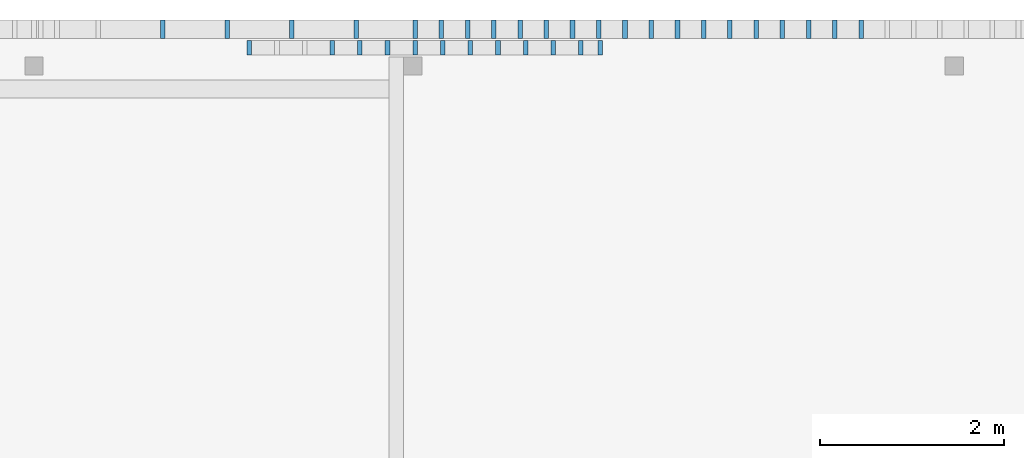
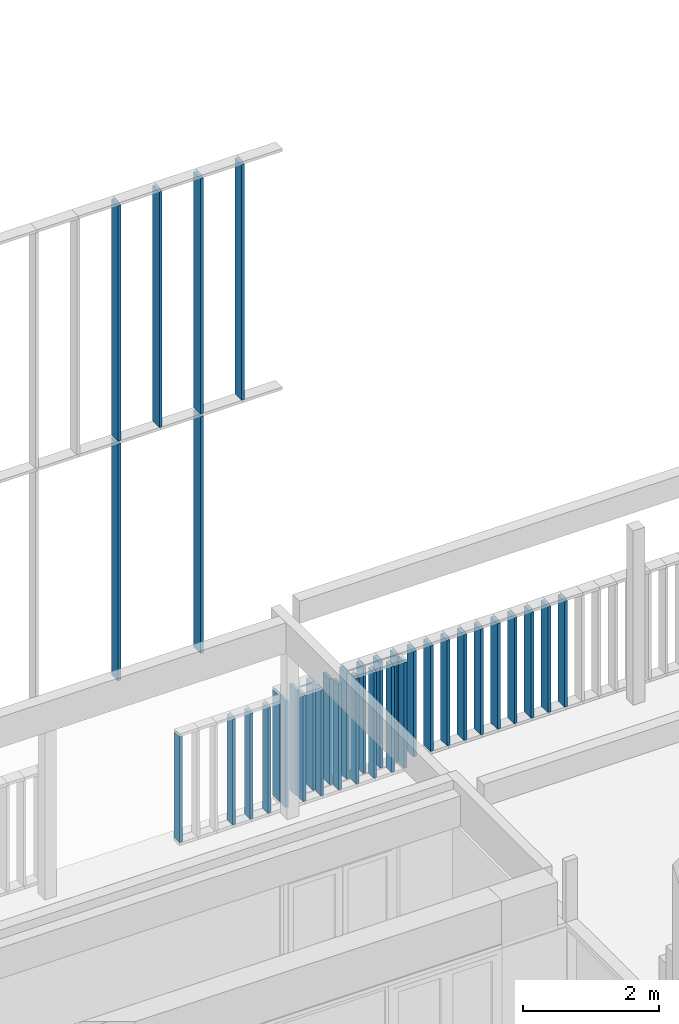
# One storey, part 24 of 240: 36 members, 3 elements without a shape of their own.
"""IFC2X3 building model written with IfcOpenShell, lengths in centimetres."""

from ifc_helpers import new_model, entity, si_unit, converted_unit, derived_unit, direction, frame, origin, origin_2d_with_axis, place, context, subcontext, project, spatial, rectangle, extrude, source, transform, mapped, material, type_object, type_shapes, element, aggregate, save


model = new_model("IFC2X3")

# Units and contexts
model_context = context("Model", 3, precision=0.001, world=origin(), true_north=direction((6.12303176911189e-17, 1.0)))
body_context = subcontext(model_context, "Body", "Model", "MODEL_VIEW")
ifc_project = project(units=[si_unit("LENGTHUNIT", "METRE", prefix="CENTI"), si_unit("AREAUNIT", "SQUARE_METRE"), si_unit("VOLUMEUNIT", "CUBIC_METRE"), converted_unit("PLANEANGLEUNIT", "DEGREE", entity("IfcRatioMeasure", 0.0174532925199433), si_unit("PLANEANGLEUNIT", "RADIAN"), dimensions=[0, 0, 0, 0, 0, 0, 0]), si_unit("MASSUNIT", "GRAM", prefix="KILO"), derived_unit("MASSDENSITYUNIT", [(si_unit("MASSUNIT", "GRAM", prefix="KILO"), 1), (si_unit("LENGTHUNIT", "METRE"), -3)]), si_unit("TIMEUNIT", "SECOND"), si_unit("FREQUENCYUNIT", "HERTZ"), si_unit("THERMODYNAMICTEMPERATUREUNIT", "DEGREE_CELSIUS"), derived_unit("THERMALTRANSMITTANCEUNIT", [(si_unit("MASSUNIT", "GRAM", prefix="KILO"), 1), (si_unit("THERMODYNAMICTEMPERATUREUNIT", "KELVIN"), -1), (si_unit("TIMEUNIT", "SECOND"), -3)]), derived_unit("VOLUMETRICFLOWRATEUNIT", [(si_unit("LENGTHUNIT", "METRE"), 3), (si_unit("TIMEUNIT", "SECOND"), -1)]), si_unit("ELECTRICCURRENTUNIT", "AMPERE"), si_unit("ELECTRICVOLTAGEUNIT", "VOLT"), si_unit("POWERUNIT", "WATT"), si_unit("FORCEUNIT", "NEWTON", prefix="KILO"), si_unit("ILLUMINANCEUNIT", "LUX"), si_unit("LUMINOUSFLUXUNIT", "LUMEN"), si_unit("LUMINOUSINTENSITYUNIT", "CANDELA"), derived_unit("USERDEFINED", [(si_unit("MASSUNIT", "GRAM", prefix="KILO"), -1), (si_unit("LENGTHUNIT", "METRE"), -2), (si_unit("TIMEUNIT", "SECOND"), 3), (si_unit("LUMINOUSFLUXUNIT", "LUMEN"), 1)]), derived_unit("LINEARVELOCITYUNIT", [(si_unit("LENGTHUNIT", "METRE"), 1), (si_unit("TIMEUNIT", "SECOND"), -1)]), si_unit("PRESSUREUNIT", "PASCAL"), derived_unit("USERDEFINED", [(si_unit("LENGTHUNIT", "METRE"), -2), (si_unit("MASSUNIT", "GRAM", prefix="KILO"), 1), (si_unit("TIMEUNIT", "SECOND"), -2)])], contexts=[model_context])

# Site, building, storey
site_placement = place(None, frame((-2781.94577612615, 7442.24238424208, 0.0)))
site = spatial("IfcSite", under=ifc_project, at=site_placement, Name="Default", CompositionType="ELEMENT")
building_placement = place(site_placement, origin())
building = spatial("IfcBuilding", under=site, at=building_placement, CompositionType="ELEMENT")
storey_placement = place(building_placement, origin())
storey = spatial("IfcBuildingStorey", under=building, at=storey_placement, Name="N00 - COO", CompositionType="ELEMENT", Elevation=0.0)

# Curtain wall, members
curtain_wall_type_1 = type_object("IfcCurtainWallType", Name="Mur-rideau:Epines - 200x50mm", PredefinedType="NOTDEFINED")
curtain_wall_1_placement = place(building_placement, origin())
curtain_wall_1 = element("IfcCurtainWall", 1, at=curtain_wall_1_placement, inside=storey, type_object=curtain_wall_type_1, Name="Mur-rideau:Epines - 200x50mm", ObjectType="Mur-rideau:Epines - 200x50mm")
ifc_material = material(Name="Aluminium")
member_type_1 = type_object("IfcMemberType", Name="200x50 mm", PredefinedType="MEMBER")
shared_shape_1 = source(origin(), body_context, "Body", "SweptSolid", [
    extrude(rectangle(XDim=20.0, YDim=5.0, at=origin_2d_with_axis()), frame((0.0, 0.0, -423.0), z_axis=(0.0, 0.0, 1.0), x_axis=(0.0, -1.0, 0.0)), (0.0, 0.0, 1.0), 423.000000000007),
])
type_shapes(member_type_1, [shared_shape_1])
member_1_placement = place(building_placement, frame((-3929.49987760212, 40.0, 748.0), z_axis=(0.0, 0.0, -1.0), x_axis=(1.0, 0.0, 0.0)))
member_1 = element("IfcMember", 2, at=member_1_placement, type_object=member_type_1, material=ifc_material, Name="Meneau rectangulaire:200x50 mm", ObjectType="Meneau rectangulaire:200x50 mm", context=body_context, shape_type="MappedRepresentation", body=[
    mapped(shared_shape_1, transform((0.0, 0.0, 0.0), scale=1.0)),
])
member_2_placement = place(building_placement, frame((-3789.49987864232, 40.0, 748.0), z_axis=(0.0, 0.0, -1.0), x_axis=(1.0, 0.0, 0.0)))
member_2 = element("IfcMember", 3, at=member_2_placement, type_object=member_type_1, material=ifc_material, Name="Meneau rectangulaire:200x50 mm", ObjectType="Meneau rectangulaire:200x50 mm", context=body_context, shape_type="MappedRepresentation", body=[
    mapped(shared_shape_1, transform((0.0, 0.0, 0.0), scale=1.0)),
])
member_3_placement = place(building_placement, frame((-3719.49987916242, 40.0, 748.0), z_axis=(0.0, 0.0, -1.0), x_axis=(1.0, 0.0, 0.0)))
member_3 = element("IfcMember", 4, at=member_3_placement, type_object=member_type_1, material=ifc_material, Name="Meneau rectangulaire:200x50 mm", ObjectType="Meneau rectangulaire:200x50 mm", context=body_context, shape_type="MappedRepresentation", body=[
    mapped(shared_shape_1, transform((0.0, 0.0, 0.0), scale=1.0)),
])
member_4_placement = place(building_placement, frame((-3859.49987812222, 40.0, 748.0), z_axis=(0.0, 0.0, -1.0), x_axis=(1.0, 0.0, 0.0)))
member_4 = element("IfcMember", 5, at=member_4_placement, type_object=member_type_1, material=ifc_material, Name="Meneau rectangulaire:200x50 mm", ObjectType="Meneau rectangulaire:200x50 mm", context=body_context, shape_type="MappedRepresentation", body=[
    mapped(shared_shape_1, transform((0.0, 0.0, 0.0), scale=1.0)),
])
member_type_2 = type_object("IfcMemberType", Name="200x50 mm", PredefinedType="MEMBER")
shared_shape_2 = source(origin(), body_context, "Body", "SweptSolid", [
    extrude(rectangle(XDim=20.0, YDim=5.0, at=origin_2d_with_axis()), frame((0.0, 0.0, -425.5), z_axis=(0.0, 0.0, 1.0), x_axis=(0.0, -1.0, 0.0)), (0.0, 0.0, 1.0), 425.5),
])
type_shapes(member_type_2, [shared_shape_2])
member_5_placement = place(building_placement, frame((-3789.49987864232, 40.0, 317.5), z_axis=(0.0, 0.0, -1.0), x_axis=(1.0, 0.0, 0.0)))
member_5 = element("IfcMember", 6, at=member_5_placement, type_object=member_type_2, material=ifc_material, Name="Meneau rectangulaire:200x50 mm", ObjectType="Meneau rectangulaire:200x50 mm", context=body_context, shape_type="MappedRepresentation", body=[
    mapped(shared_shape_2, transform((0.0, 0.0, 0.0), scale=1.0)),
])
member_6_placement = place(building_placement, frame((-3929.49987760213, 40.0, 317.5), z_axis=(0.0, 0.0, -1.0), x_axis=(1.0, 0.0, 0.0)))
member_6 = element("IfcMember", 7, at=member_6_placement, type_object=member_type_2, material=ifc_material, Name="Meneau rectangulaire:200x50 mm", ObjectType="Meneau rectangulaire:200x50 mm", context=body_context, shape_type="MappedRepresentation", body=[
    mapped(shared_shape_2, transform((0.0, 0.0, 0.0), scale=1.0)),
])
aggregate(curtain_wall_1, [member_1, member_2, member_3, member_4, member_5, member_6])

curtain_wall_type_2 = type_object("IfcCurtainWallType", Name="Mur-rideau:SR-Clôture", PredefinedType="NOTDEFINED")
curtain_wall_2_placement = place(building_placement, origin())
curtain_wall_2 = element("IfcCurtainWall", 8, at=curtain_wall_2_placement, inside=storey, type_object=curtain_wall_type_2, Name="Mur-rideau:SR-Clôture", ObjectType="Mur-rideau:SR-Clôture")
member_type_3 = type_object("IfcMemberType", Name="Epine nord (200x50 mm)", PredefinedType="MEMBER")
shared_shape_3 = source(origin(), body_context, "Body", "SweptSolid", [
    extrude(rectangle(XDim=20.0, YDim=5.0, at=origin_2d_with_axis()), frame((0.0, 0.0, -190.0), z_axis=(0.0, 0.0, 1.0), x_axis=(0.0, -1.0, 0.0)), (0.0, 0.0, 1.0), 190.0),
])
type_shapes(member_type_3, [shared_shape_3])
member_7_placement = place(building_placement, frame((-3626.99987965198, 40.0, 5.0), z_axis=(0.0, 0.0, -1.0), x_axis=(1.0, 0.0, 0.0)))
member_7 = element("IfcMember", 9, at=member_7_placement, type_object=member_type_3, material=ifc_material, Name="Meneau rectangulaire:Epine nord (200x50 mm)", ObjectType="Meneau rectangulaire:Epine nord (200x50 mm)", context=body_context, shape_type="MappedRepresentation", body=[
    mapped(shared_shape_3, transform((0.0, 0.0, 0.0), scale=1.0)),
])
member_8_placement = place(building_placement, frame((-3598.49987965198, 40.0, 5.0), z_axis=(0.0, 0.0, -1.0), x_axis=(1.0, 0.0, 0.0)))
member_8 = element("IfcMember", 10, at=member_8_placement, type_object=member_type_3, material=ifc_material, Name="Meneau rectangulaire:Epine nord (200x50 mm)", ObjectType="Meneau rectangulaire:Epine nord (200x50 mm)", context=body_context, shape_type="MappedRepresentation", body=[
    mapped(shared_shape_3, transform((0.0, 0.0, 0.0), scale=1.0)),
])
member_9_placement = place(building_placement, frame((-3569.99987965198, 40.0, 5.0), z_axis=(0.0, 0.0, -1.0), x_axis=(1.0, 0.0, 0.0)))
member_9 = element("IfcMember", 11, at=member_9_placement, type_object=member_type_3, material=ifc_material, Name="Meneau rectangulaire:Epine nord (200x50 mm)", ObjectType="Meneau rectangulaire:Epine nord (200x50 mm)", context=body_context, shape_type="MappedRepresentation", body=[
    mapped(shared_shape_3, transform((0.0, 0.0, 0.0), scale=1.0)),
])
member_10_placement = place(building_placement, frame((-3541.49987965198, 40.0, 5.0), z_axis=(0.0, 0.0, -1.0), x_axis=(1.0, 0.0, 0.0)))
member_10 = element("IfcMember", 12, at=member_10_placement, type_object=member_type_3, material=ifc_material, Name="Meneau rectangulaire:Epine nord (200x50 mm)", ObjectType="Meneau rectangulaire:Epine nord (200x50 mm)", context=body_context, shape_type="MappedRepresentation", body=[
    mapped(shared_shape_3, transform((0.0, 0.0, 0.0), scale=1.0)),
])
member_11_placement = place(building_placement, frame((-3512.99987965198, 40.0, 5.0), z_axis=(0.0, 0.0, -1.0), x_axis=(1.0, 0.0, 0.0)))
member_11 = element("IfcMember", 13, at=member_11_placement, type_object=member_type_3, material=ifc_material, Name="Meneau rectangulaire:Epine nord (200x50 mm)", ObjectType="Meneau rectangulaire:Epine nord (200x50 mm)", context=body_context, shape_type="MappedRepresentation", body=[
    mapped(shared_shape_3, transform((0.0, 0.0, 0.0), scale=1.0)),
])
member_12_placement = place(building_placement, frame((-3484.49987965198, 40.0, 5.0), z_axis=(0.0, 0.0, -1.0), x_axis=(1.0, 0.0, 0.0)))
member_12 = element("IfcMember", 14, at=member_12_placement, type_object=member_type_3, material=ifc_material, Name="Meneau rectangulaire:Epine nord (200x50 mm)", ObjectType="Meneau rectangulaire:Epine nord (200x50 mm)", context=body_context, shape_type="MappedRepresentation", body=[
    mapped(shared_shape_3, transform((0.0, 0.0, 0.0), scale=1.0)),
])
member_13_placement = place(building_placement, frame((-3455.99987965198, 40.0, 5.0), z_axis=(0.0, 0.0, -1.0), x_axis=(1.0, 0.0, 0.0)))
member_13 = element("IfcMember", 15, at=member_13_placement, type_object=member_type_3, material=ifc_material, Name="Meneau rectangulaire:Epine nord (200x50 mm)", ObjectType="Meneau rectangulaire:Epine nord (200x50 mm)", context=body_context, shape_type="MappedRepresentation", body=[
    mapped(shared_shape_3, transform((0.0, 0.0, 0.0), scale=1.0)),
])
member_14_placement = place(building_placement, frame((-3427.49987965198, 40.0, 5.0), z_axis=(0.0, 0.0, -1.0), x_axis=(1.0, 0.0, 0.0)))
member_14 = element("IfcMember", 16, at=member_14_placement, type_object=member_type_3, material=ifc_material, Name="Meneau rectangulaire:Epine nord (200x50 mm)", ObjectType="Meneau rectangulaire:Epine nord (200x50 mm)", context=body_context, shape_type="MappedRepresentation", body=[
    mapped(shared_shape_3, transform((0.0, 0.0, 0.0), scale=1.0)),
])
member_15_placement = place(building_placement, frame((-3398.99987965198, 40.0, 5.0), z_axis=(0.0, 0.0, -1.0), x_axis=(1.0, 0.0, 0.0)))
member_15 = element("IfcMember", 17, at=member_15_placement, type_object=member_type_3, material=ifc_material, Name="Meneau rectangulaire:Epine nord (200x50 mm)", ObjectType="Meneau rectangulaire:Epine nord (200x50 mm)", context=body_context, shape_type="MappedRepresentation", body=[
    mapped(shared_shape_3, transform((0.0, 0.0, 0.0), scale=1.0)),
])
member_16_placement = place(building_placement, frame((-3370.49987965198, 40.0, 5.0), z_axis=(0.0, 0.0, -1.0), x_axis=(1.0, 0.0, 0.0)))
member_16 = element("IfcMember", 18, at=member_16_placement, type_object=member_type_3, material=ifc_material, Name="Meneau rectangulaire:Epine nord (200x50 mm)", ObjectType="Meneau rectangulaire:Epine nord (200x50 mm)", context=body_context, shape_type="MappedRepresentation", body=[
    mapped(shared_shape_3, transform((0.0, 0.0, 0.0), scale=1.0)),
])
member_17_placement = place(building_placement, frame((-3341.99987965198, 40.0, 5.0), z_axis=(0.0, 0.0, -1.0), x_axis=(1.0, 0.0, 0.0)))
member_17 = element("IfcMember", 19, at=member_17_placement, type_object=member_type_3, material=ifc_material, Name="Meneau rectangulaire:Epine nord (200x50 mm)", ObjectType="Meneau rectangulaire:Epine nord (200x50 mm)", context=body_context, shape_type="MappedRepresentation", body=[
    mapped(shared_shape_3, transform((0.0, 0.0, 0.0), scale=1.0)),
])
member_18_placement = place(building_placement, frame((-3313.49987965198, 40.0, 5.0), z_axis=(0.0, 0.0, -1.0), x_axis=(1.0, 0.0, 0.0)))
member_18 = element("IfcMember", 20, at=member_18_placement, type_object=member_type_3, material=ifc_material, Name="Meneau rectangulaire:Epine nord (200x50 mm)", ObjectType="Meneau rectangulaire:Epine nord (200x50 mm)", context=body_context, shape_type="MappedRepresentation", body=[
    mapped(shared_shape_3, transform((0.0, 0.0, 0.0), scale=1.0)),
])
member_19_placement = place(building_placement, frame((-3284.99987965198, 40.0, 5.0), z_axis=(0.0, 0.0, -1.0), x_axis=(1.0, 0.0, 0.0)))
member_19 = element("IfcMember", 21, at=member_19_placement, type_object=member_type_3, material=ifc_material, Name="Meneau rectangulaire:Epine nord (200x50 mm)", ObjectType="Meneau rectangulaire:Epine nord (200x50 mm)", context=body_context, shape_type="MappedRepresentation", body=[
    mapped(shared_shape_3, transform((0.0, 0.0, 0.0), scale=1.0)),
])
member_20_placement = place(building_placement, frame((-3256.49987965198, 40.0, 5.0), z_axis=(0.0, 0.0, -1.0), x_axis=(1.0, 0.0, 0.0)))
member_20 = element("IfcMember", 22, at=member_20_placement, type_object=member_type_3, material=ifc_material, Name="Meneau rectangulaire:Epine nord (200x50 mm)", ObjectType="Meneau rectangulaire:Epine nord (200x50 mm)", context=body_context, shape_type="MappedRepresentation", body=[
    mapped(shared_shape_3, transform((0.0, 0.0, 0.0), scale=1.0)),
])
member_21_placement = place(building_placement, frame((-3227.99987965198, 40.0, 5.0), z_axis=(0.0, 0.0, -1.0), x_axis=(1.0, 0.0, 0.0)))
member_21 = element("IfcMember", 23, at=member_21_placement, type_object=member_type_3, material=ifc_material, Name="Meneau rectangulaire:Epine nord (200x50 mm)", ObjectType="Meneau rectangulaire:Epine nord (200x50 mm)", context=body_context, shape_type="MappedRepresentation", body=[
    mapped(shared_shape_3, transform((0.0, 0.0, 0.0), scale=1.0)),
])
member_22_placement = place(building_placement, frame((-3199.49987965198, 40.0, 5.0), z_axis=(0.0, 0.0, -1.0), x_axis=(1.0, 0.0, 0.0)))
member_22 = element("IfcMember", 24, at=member_22_placement, type_object=member_type_3, material=ifc_material, Name="Meneau rectangulaire:Epine nord (200x50 mm)", ObjectType="Meneau rectangulaire:Epine nord (200x50 mm)", context=body_context, shape_type="MappedRepresentation", body=[
    mapped(shared_shape_3, transform((0.0, 0.0, 0.0), scale=1.0)),
])
member_23_placement = place(building_placement, frame((-3170.99987965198, 40.0, 5.0), z_axis=(0.0, 0.0, -1.0), x_axis=(1.0, 0.0, 0.0)))
member_23 = element("IfcMember", 25, at=member_23_placement, type_object=member_type_3, material=ifc_material, Name="Meneau rectangulaire:Epine nord (200x50 mm)", ObjectType="Meneau rectangulaire:Epine nord (200x50 mm)", context=body_context, shape_type="MappedRepresentation", body=[
    mapped(shared_shape_3, transform((0.0, 0.0, 0.0), scale=1.0)),
])
member_type_4 = type_object("IfcMemberType", Name="Epine nord (200x50 mm)", PredefinedType="MEMBER")
shared_shape_4 = source(origin(), body_context, "Body", "SweptSolid", [
    extrude(rectangle(XDim=20.0, YDim=5.0, at=origin_2d_with_axis()), frame((-2.5, 0.0, -190.0), z_axis=(0.0, 0.0, 1.0), x_axis=(0.0, -1.0, 0.0)), (0.0, 0.0, 1.0), 190.0),
])
type_shapes(member_type_4, [shared_shape_4])
member_24_placement = place(building_placement, frame((-3657.99987968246, 40.0, 195.0), z_axis=(0.0, 0.0, 1.0), x_axis=(-1.0, 0.0, 0.0)))
member_24 = element("IfcMember", 26, at=member_24_placement, type_object=member_type_4, material=ifc_material, Name="Meneau rectangulaire:Epine nord (200x50 mm)", ObjectType="Meneau rectangulaire:Epine nord (200x50 mm)", context=body_context, shape_type="MappedRepresentation", body=[
    mapped(shared_shape_4, transform((0.0, 0.0, 0.0), scale=1.0)),
])
aggregate(curtain_wall_2, [member_7, member_8, member_9, member_10, member_11, member_12, member_13, member_14, member_15, member_16, member_17, member_18, member_19, member_20, member_21, member_22, member_23, member_24])

curtain_wall_type_3 = type_object("IfcCurtainWallType", Name="Mur-SR", PredefinedType="NOTDEFINED")
curtain_wall_3_placement = place(storey_placement, origin())
curtain_wall_3 = element("IfcCurtainWall", 27, at=curtain_wall_3_placement, inside=storey, type_object=curtain_wall_type_3, Name="Mur-SR", ObjectType="Mur-SR")
member_type_5 = type_object("IfcMemberType", Name="Epine nord (160x50 mm)", PredefinedType="MEMBER")
shared_shape_5 = source(origin(), body_context, "Body", "SweptSolid", [
    extrude(rectangle(XDim=16.0, YDim=5.0, at=origin_2d_with_axis()), frame((0.0, 0.0, -190.0), z_axis=(0.0, 0.0, 1.0), x_axis=(0.0, -1.0, 0.0)), (0.0, 0.0, 1.0), 190.0),
])
type_shapes(member_type_5, [shared_shape_5])
member_25_placement = place(storey_placement, frame((-3745.49987968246, 20.0, 5.0), z_axis=(0.0, 0.0, -1.0), x_axis=(1.0, 0.0, 0.0)))
member_25 = element("IfcMember", 28, at=member_25_placement, type_object=member_type_5, material=ifc_material, Name="Meneau rectangulaire:Epine nord (160x50 mm)", ObjectType="Meneau rectangulaire:Epine nord (160x50 mm)", context=body_context, shape_type="MappedRepresentation", body=[
    mapped(shared_shape_5, transform((0.0, 0.0, 0.0), scale=1.0)),
])
member_26_placement = place(storey_placement, frame((-3715.49987968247, 20.0, 5.0), z_axis=(0.0, 0.0, -1.0), x_axis=(1.0, 0.0, 0.0)))
member_26 = element("IfcMember", 29, at=member_26_placement, type_object=member_type_5, material=ifc_material, Name="Meneau rectangulaire:Epine nord (160x50 mm)", ObjectType="Meneau rectangulaire:Epine nord (160x50 mm)", context=body_context, shape_type="MappedRepresentation", body=[
    mapped(shared_shape_5, transform((0.0, 0.0, 0.0), scale=1.0)),
])
member_27_placement = place(storey_placement, frame((-3685.49987968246, 20.0, 5.0), z_axis=(0.0, 0.0, -1.0), x_axis=(1.0, 0.0, 0.0)))
member_27 = element("IfcMember", 30, at=member_27_placement, type_object=member_type_5, material=ifc_material, Name="Meneau rectangulaire:Epine nord (160x50 mm)", ObjectType="Meneau rectangulaire:Epine nord (160x50 mm)", context=body_context, shape_type="MappedRepresentation", body=[
    mapped(shared_shape_5, transform((0.0, 0.0, 0.0), scale=1.0)),
])
member_28_placement = place(storey_placement, frame((-3655.49987968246, 20.0, 5.0), z_axis=(0.0, 0.0, -1.0), x_axis=(1.0, 0.0, 0.0)))
member_28 = element("IfcMember", 31, at=member_28_placement, type_object=member_type_5, material=ifc_material, Name="Meneau rectangulaire:Epine nord (160x50 mm)", ObjectType="Meneau rectangulaire:Epine nord (160x50 mm)", context=body_context, shape_type="MappedRepresentation", body=[
    mapped(shared_shape_5, transform((0.0, 0.0, 0.0), scale=1.0)),
])
member_29_placement = place(storey_placement, frame((-3625.49987968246, 20.0, 5.0), z_axis=(0.0, 0.0, -1.0), x_axis=(1.0, 0.0, 0.0)))
member_29 = element("IfcMember", 32, at=member_29_placement, type_object=member_type_5, material=ifc_material, Name="Meneau rectangulaire:Epine nord (160x50 mm)", ObjectType="Meneau rectangulaire:Epine nord (160x50 mm)", context=body_context, shape_type="MappedRepresentation", body=[
    mapped(shared_shape_5, transform((0.0, 0.0, 0.0), scale=1.0)),
])
member_30_placement = place(storey_placement, frame((-3595.49987968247, 20.0, 5.0), z_axis=(0.0, 0.0, -1.0), x_axis=(1.0, 0.0, 0.0)))
member_30 = element("IfcMember", 33, at=member_30_placement, type_object=member_type_5, material=ifc_material, Name="Meneau rectangulaire:Epine nord (160x50 mm)", ObjectType="Meneau rectangulaire:Epine nord (160x50 mm)", context=body_context, shape_type="MappedRepresentation", body=[
    mapped(shared_shape_5, transform((0.0, 0.0, 0.0), scale=1.0)),
])
member_31_placement = place(storey_placement, frame((-3565.49987968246, 20.0, 5.0), z_axis=(0.0, 0.0, -1.0), x_axis=(1.0, 0.0, 0.0)))
member_31 = element("IfcMember", 34, at=member_31_placement, type_object=member_type_5, material=ifc_material, Name="Meneau rectangulaire:Epine nord (160x50 mm)", ObjectType="Meneau rectangulaire:Epine nord (160x50 mm)", context=body_context, shape_type="MappedRepresentation", body=[
    mapped(shared_shape_5, transform((0.0, 0.0, 0.0), scale=1.0)),
])
member_32_placement = place(storey_placement, frame((-3535.49987968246, 20.0, 5.0), z_axis=(0.0, 0.0, -1.0), x_axis=(1.0, 0.0, 0.0)))
member_32 = element("IfcMember", 35, at=member_32_placement, type_object=member_type_5, material=ifc_material, Name="Meneau rectangulaire:Epine nord (160x50 mm)", ObjectType="Meneau rectangulaire:Epine nord (160x50 mm)", context=body_context, shape_type="MappedRepresentation", body=[
    mapped(shared_shape_5, transform((0.0, 0.0, 0.0), scale=1.0)),
])
member_33_placement = place(storey_placement, frame((-3505.49987968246, 20.0, 5.0), z_axis=(0.0, 0.0, -1.0), x_axis=(1.0, 0.0, 0.0)))
member_33 = element("IfcMember", 36, at=member_33_placement, type_object=member_type_5, material=ifc_material, Name="Meneau rectangulaire:Epine nord (160x50 mm)", ObjectType="Meneau rectangulaire:Epine nord (160x50 mm)", context=body_context, shape_type="MappedRepresentation", body=[
    mapped(shared_shape_5, transform((0.0, 0.0, 0.0), scale=1.0)),
])
member_34_placement = place(storey_placement, frame((-3475.49987968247, 20.0, 5.0), z_axis=(0.0, 0.0, -1.0), x_axis=(1.0, 0.0, 0.0)))
member_34 = element("IfcMember", 37, at=member_34_placement, type_object=member_type_5, material=ifc_material, Name="Meneau rectangulaire:Epine nord (160x50 mm)", ObjectType="Meneau rectangulaire:Epine nord (160x50 mm)", context=body_context, shape_type="MappedRepresentation", body=[
    mapped(shared_shape_5, transform((0.0, 0.0, 0.0), scale=1.0)),
])
member_type_6 = type_object("IfcMemberType", Name="Epine nord (160x50 mm)", PredefinedType="MEMBER")
shared_shape_6 = source(origin(), body_context, "Body", "SweptSolid", [
    extrude(rectangle(XDim=16.0, YDim=5.0, at=origin_2d_with_axis()), frame((-2.5, 0.0, -190.0), z_axis=(0.0, 0.0, 1.0), x_axis=(0.0, -1.0, 0.0)), (0.0, 0.0, 1.0), 190.0),
])
type_shapes(member_type_6, [shared_shape_6])
member_35_placement = place(storey_placement, frame((-3451.99987971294, 20.0, 5.0), z_axis=(0.0, 0.0, -1.0), x_axis=(1.0, 0.0, 0.0)))
member_35 = element("IfcMember", 38, at=member_35_placement, type_object=member_type_6, material=ifc_material, Name="Meneau rectangulaire:Epine nord (160x50 mm)", ObjectType="Meneau rectangulaire:Epine nord (160x50 mm)", context=body_context, shape_type="MappedRepresentation", body=[
    mapped(shared_shape_6, transform((0.0, 0.0, 0.0), scale=1.0)),
])
member_type_7 = type_object("IfcMemberType", Name="Epine nord (160x50 mm)", PredefinedType="MEMBER")
shared_shape_7 = source(origin(), body_context, "Body", "SweptSolid", [
    extrude(rectangle(XDim=16.0, YDim=5.0, at=origin_2d_with_axis()), frame((-2.5, 0.0, -190.0), z_axis=(0.0, 0.0, 1.0), x_axis=(0.0, -1.0, 0.0)), (0.0, 0.0, 1.0), 190.0),
])
type_shapes(member_type_7, [shared_shape_7])
member_36_placement = place(storey_placement, frame((-3837.99987971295, 20.0, 195.0), z_axis=(0.0, 0.0, 1.0), x_axis=(-1.0, 0.0, 0.0)))
member_36 = element("IfcMember", 39, at=member_36_placement, type_object=member_type_7, material=ifc_material, Name="Meneau rectangulaire:Epine nord (160x50 mm)", ObjectType="Meneau rectangulaire:Epine nord (160x50 mm)", context=body_context, shape_type="MappedRepresentation", body=[
    mapped(shared_shape_7, transform((0.0, 0.0, 0.0), scale=1.0)),
])
aggregate(curtain_wall_3, [member_25, member_35, member_36, member_26, member_27, member_28, member_29, member_30, member_31, member_32, member_33, member_34])

save(model, "model.ifc")
